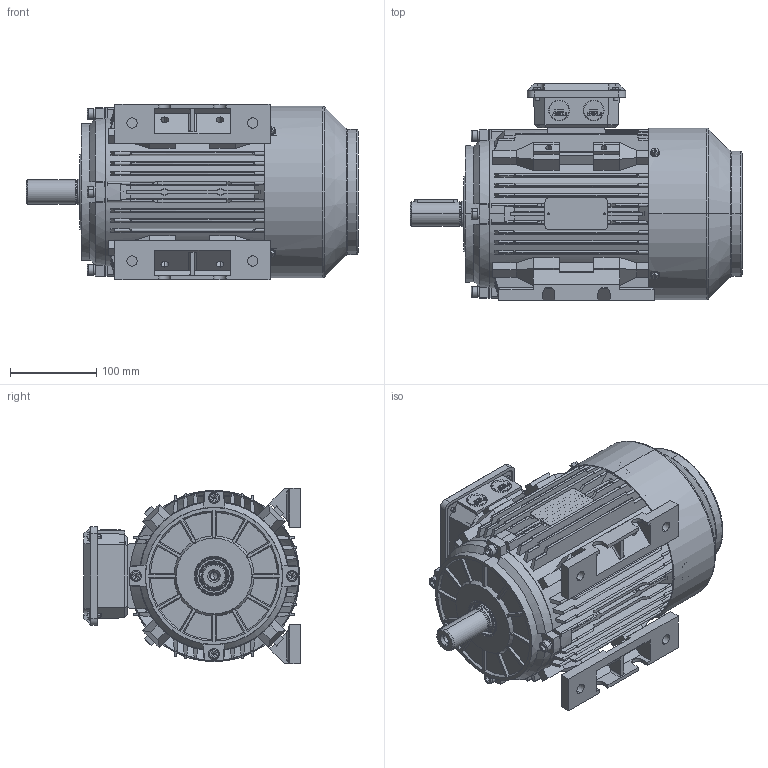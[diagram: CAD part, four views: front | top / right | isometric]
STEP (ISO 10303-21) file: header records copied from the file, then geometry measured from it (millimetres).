
FILE_DESCRIPTION (( 'STEP AP214' ), '1' );
FILE_NAME ('BCT4110.10J803.11.step', '2020-04-23T15:28:52', ( '' ), ( '' ), 'SwSTEP 2.0', 'SolidWorks 2019', '' );
FILE_SCHEMA (( 'AUTOMOTIVE_DESIGN' ));
Length unit declared in the file: millimetre
Products named in the file (1): BCT4110.10J803.11
Bounding box: 385 x 250.98 x 202.96 mm (x, y, z)
Volume: 3184042.3 mm3; surface area: 1066455.6 mm2
Topology: 34 solids, 34 shells, 2875 faces, 7591 edges, 4897 vertices
Faces by surface type: plane 1651, cylinder 684, cone 319, torus 132, bspline 89
Entity records: 106029 total; most frequent: CARTESIAN_POINT 35469, ORIENTED_EDGE 15086, DIRECTION 13675, EDGE_CURVE 7543, VERTEX_POINT 4897, AXIS2_PLACEMENT_3D 4569, VECTOR 4537, LINE 4537
